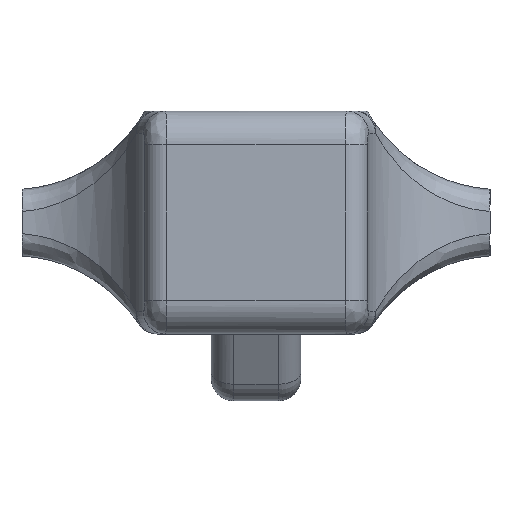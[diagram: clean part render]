
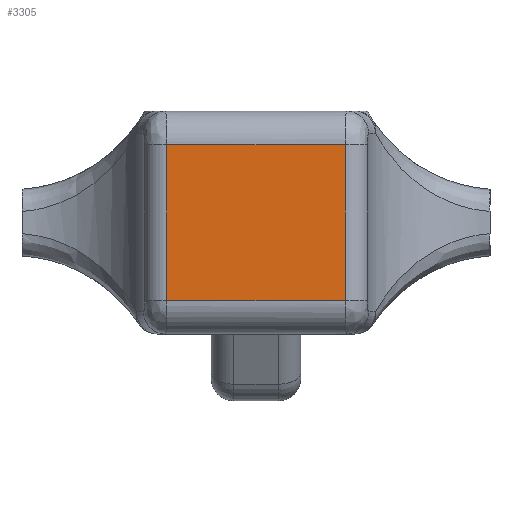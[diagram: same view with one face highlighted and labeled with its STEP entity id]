
A CAD part, left-side view. The second image highlights one B-rep face of the part: STEP entity #3305.
In plain terms, the highlighted planar face has unit normal (-1, 0, 0).
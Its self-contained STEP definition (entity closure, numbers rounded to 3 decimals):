
#75 = VECTOR ( 'NONE', #3276, 1000. ) ;
#79 = VERTEX_POINT ( 'NONE', #2978 ) ;
#306 = VECTOR ( 'NONE', #4495, 1000. ) ;
#309 = LINE ( 'NONE', #4165, #4771 ) ;
#573 = VERTEX_POINT ( 'NONE', #3584 ) ;
#611 = CARTESIAN_POINT ( 'NONE',  ( -15., 9.937, 7. ) ) ;
#1035 = VECTOR ( 'NONE', #3296, 1000. ) ;
#1323 = PLANE ( 'NONE',  #3740 ) ;
#1608 = CARTESIAN_POINT ( 'NONE',  ( -15., 8.01, 7. ) ) ;
#1674 = CARTESIAN_POINT ( 'NONE',  ( -15., 8.01, 10. ) ) ;
#1737 = ORIENTED_EDGE ( 'NONE', *, *, #4005, .T. ) ;
#2008 = VERTEX_POINT ( 'NONE', #1608 ) ;
#2196 = ORIENTED_EDGE ( 'NONE', *, *, #2933, .T. ) ;
#2263 = EDGE_CURVE ( 'NONE', #4231, #79, #3725, .T. ) ;
#2556 = CARTESIAN_POINT ( 'NONE',  ( -15., 21., 10. ) ) ;
#2771 = EDGE_LOOP ( 'NONE', ( #5038, #3028, #1737, #2196 ) ) ;
#2877 = CARTESIAN_POINT ( 'NONE',  ( -15., 8.01, -7. ) ) ;
#2933 = EDGE_CURVE ( 'NONE', #2008, #4231, #3655, .T. ) ;
#2958 = CARTESIAN_POINT ( 'NONE',  ( -15., 21., -7. ) ) ;
#2978 = CARTESIAN_POINT ( 'NONE',  ( -15., -8.01, -7. ) ) ;
#3028 = ORIENTED_EDGE ( 'NONE', *, *, #3805, .T. ) ;
#3276 = DIRECTION ( 'NONE',  ( 0., 1., 0. ) ) ;
#3296 = DIRECTION ( 'NONE',  ( 0., 0., -1. ) ) ;
#3305 = ADVANCED_FACE ( 'NONE', ( #4493 ), #1323, .F. ) ;
#3584 = CARTESIAN_POINT ( 'NONE',  ( -15., -8.01, 7. ) ) ;
#3636 = LINE ( 'NONE', #611, #75 ) ;
#3655 = LINE ( 'NONE', #1674, #1035 ) ;
#3725 = LINE ( 'NONE', #2958, #306 ) ;
#3740 = AXIS2_PLACEMENT_3D ( 'NONE', #2556, #4906, #4932 ) ;
#3805 = EDGE_CURVE ( 'NONE', #79, #573, #309, .T. ) ;
#4005 = EDGE_CURVE ( 'NONE', #573, #2008, #3636, .T. ) ;
#4165 = CARTESIAN_POINT ( 'NONE',  ( -15., -8.01, 10. ) ) ;
#4231 = VERTEX_POINT ( 'NONE', #2877 ) ;
#4493 = FACE_OUTER_BOUND ( 'NONE', #2771, .T. ) ;
#4495 = DIRECTION ( 'NONE',  ( 0., -1., 0. ) ) ;
#4771 = VECTOR ( 'NONE', #5052, 1000. ) ;
#4906 = DIRECTION ( 'NONE',  ( 1., 0., 0. ) ) ;
#4932 = DIRECTION ( 'NONE',  ( 0., 1., 0. ) ) ;
#5038 = ORIENTED_EDGE ( 'NONE', *, *, #2263, .T. ) ;
#5052 = DIRECTION ( 'NONE',  ( 0., 0., 1. ) ) ;
